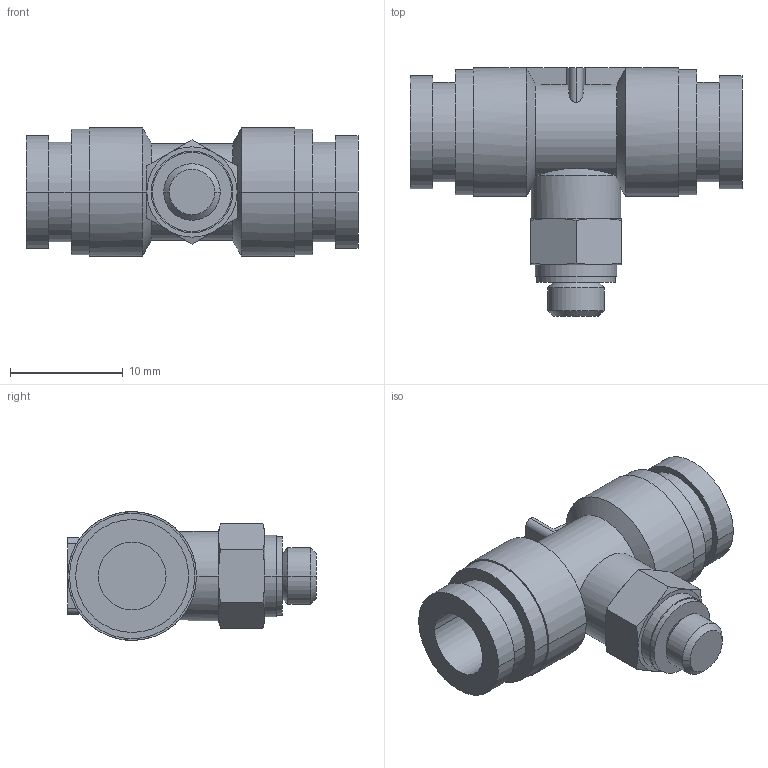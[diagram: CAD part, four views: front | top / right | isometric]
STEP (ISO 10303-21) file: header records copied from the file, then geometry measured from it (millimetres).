
FILE_DESCRIPTION( ( '' ), '1' );
FILE_NAME( 'G:/SMC狟婥/KQ2T06-M5A.stp', '2023-03-07T03:12:24', ( '' ), ( '' ), ' ', ' ', ' ' );
FILE_SCHEMA( ( 'CONFIG_CONTROL_DESIGN' ) );
Length unit declared in the file: millimetre
Products named in the file (1): 1
Bounding box: 29.4 x 22 x 11.4 mm (x, y, z)
Volume: 2160.3 mm3; surface area: 2126.6 mm2
Topology: 1 solids, 1 shells, 94 faces, 216 edges, 136 vertices
Faces by surface type: cylinder 38, plane 34, cone 22
Entity records: 2891 total; most frequent: CARTESIAN_POINT 750, DIRECTION 456, ORIENTED_EDGE 432, EDGE_CURVE 216, AXIS2_PLACEMENT_3D 191, VERTEX_POINT 136, EDGE_LOOP 106, ADVANCED_FACE 94
